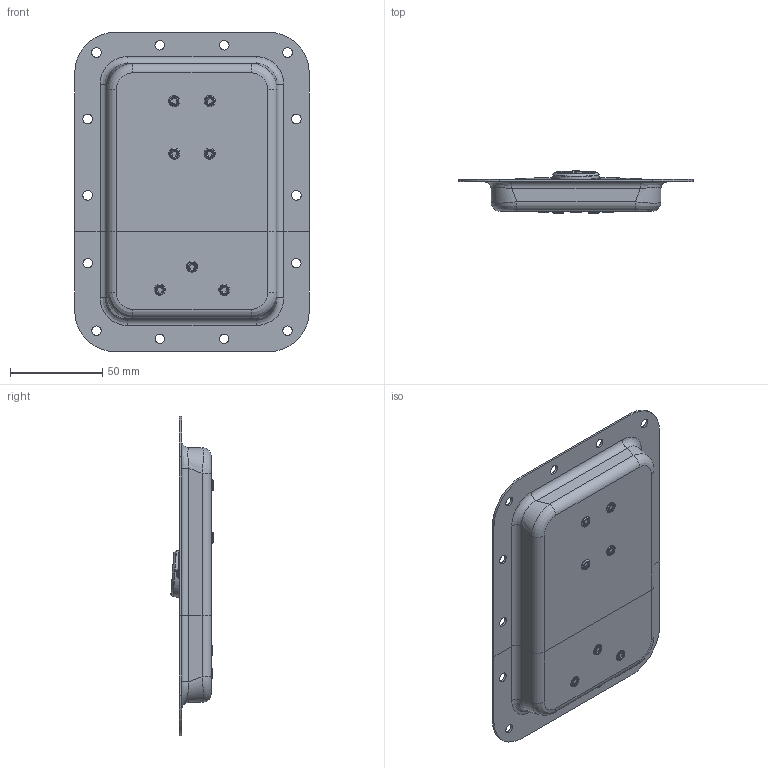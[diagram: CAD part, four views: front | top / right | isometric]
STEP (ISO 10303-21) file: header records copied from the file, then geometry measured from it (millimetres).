
FILE_DESCRIPTION (( 'STEP AP214' ), '1' );
FILE_NAME ('Penn Elcom-L925-525-38.STEP', '2020-03-28T15:40:58', ( '' ), ( '' ), 'SwSTEP 2.0', 'SolidWorks 2019', '' );
FILE_SCHEMA (( 'AUTOMOTIVE_DESIGN' ));
Length unit declared in the file: millimetre
Products named in the file (17): L0925_Closed; 04-047-10 (4-16 x 3-16 OOH Rivet)_04-047-10 (2.7mm); Penn Elcom-L925-525-38; L0925HX Long Rivet; L0925 Catchplate; L0925-Spring Left_HalfCompressed; L0925HX Short Rivet; LargeSplitDish-Bottom_D0525-Bottom; L0925 Key_Logo; L0925 Lock Nut; 04-047-10 (4-16 x 3-16 OOH Rivet); L0925Z BODY; LargeSplitDish-Top_D0525-Top; L0925 Slider; L0925 Hinge Plate; L0925-Spring Right_HalfCompressed; L0925Z Cam
Assembly tree (21 placements, depth 3):
  Penn Elcom-L925-525-38
    LargeSplitDish-Bottom_D0525-Bottom
    L0925_Closed
      L0925Z BODY
      L0925 Hinge Plate
      L0925 Lock Nut
      L0925Z Cam
      L0925HX Long Rivet
      L0925 Slider
      L0925 Key_Logo
      L0925-Spring Left_HalfCompressed
      L0925-Spring Right_HalfCompressed
      L0925HX Short Rivet
    04-047-10 (4-16 x 3-16 OOH Rivet)_04-047-10 (2.7mm)  x4
    04-047-10 (4-16 x 3-16 OOH Rivet)  x3
    LargeSplitDish-Top_D0525-Top
    L0925 Catchplate
Bounding box: 127 x 22.84 x 173 mm (x, y, z)
Volume: 57226.6 mm3; surface area: 85720.7 mm2
Topology: 20 solids, 20 shells, 913 faces, 2176 edges, 1328 vertices
Faces by surface type: cylinder 379, bspline 270, plane 250, cone 14
Entity records: 35012 total; most frequent: CARTESIAN_POINT 16029, ORIENTED_EDGE 3976, DIRECTION 3663, EDGE_CURVE 1988, AXIS2_PLACEMENT_3D 1384, VERTEX_POINT 1218, EDGE_LOOP 924, LINE 895
